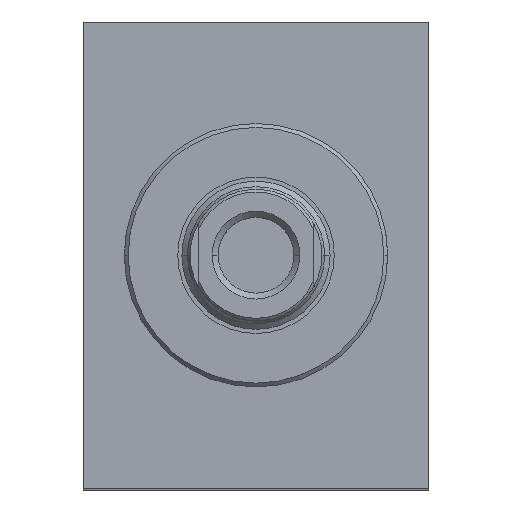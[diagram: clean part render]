
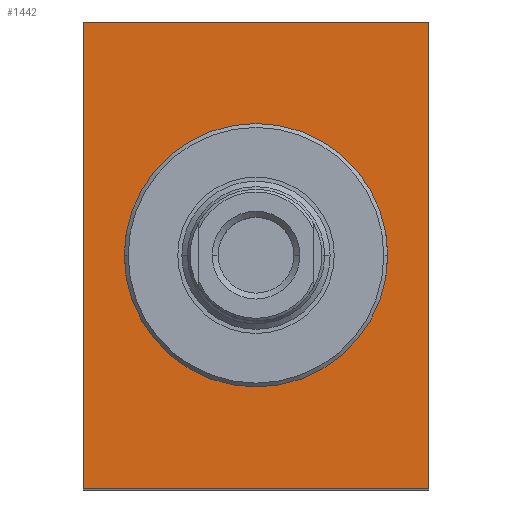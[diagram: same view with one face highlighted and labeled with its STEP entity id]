
A CAD part, top view. The second image highlights one B-rep face of the part: STEP entity #1442.
In plain terms, the highlighted planar face has unit normal (0, 0, 1).
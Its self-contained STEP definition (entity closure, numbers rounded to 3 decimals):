
#31 = VECTOR ( 'NONE', #956, 1000. ) ;
#97 = VECTOR ( 'NONE', #4282, 1000. ) ;
#133 = CARTESIAN_POINT ( 'NONE',  ( -31.5, -42.5, -10. ) ) ;
#407 = DIRECTION ( 'NONE',  ( 0., -1., 0. ) ) ;
#548 = DIRECTION ( 'NONE',  ( 0., 0., -1. ) ) ;
#587 = CARTESIAN_POINT ( 'NONE',  ( -31.5, 42.5, -10. ) ) ;
#604 = VERTEX_POINT ( 'NONE', #3106 ) ;
#876 = FACE_OUTER_BOUND ( 'NONE', #2413, .T. ) ;
#956 = DIRECTION ( 'NONE',  ( 1., 0., 0. ) ) ;
#992 = CARTESIAN_POINT ( 'NONE',  ( 31.5, 42.5, -10. ) ) ;
#1021 = VECTOR ( 'NONE', #4229, 1000. ) ;
#1174 = CIRCLE ( 'NONE', #1852, 24.001 ) ;
#1182 = ORIENTED_EDGE ( 'NONE', *, *, #3375, .T. ) ;
#1234 = EDGE_LOOP ( 'NONE', ( #2014, #2585 ) ) ;
#1296 = EDGE_CURVE ( 'NONE', #1327, #2000, #3342, .T. ) ;
#1300 = FACE_BOUND ( 'NONE', #1234, .T. ) ;
#1302 = ORIENTED_EDGE ( 'NONE', *, *, #1521, .T. ) ;
#1327 = VERTEX_POINT ( 'NONE', #2508 ) ;
#1351 = DIRECTION ( 'NONE',  ( 0., 0., 1. ) ) ;
#1442 = ADVANCED_FACE ( 'NONE', ( #1300, #876 ), #3272, .T. ) ;
#1521 = EDGE_CURVE ( 'NONE', #1607, #3082, #3692, .T. ) ;
#1535 = CARTESIAN_POINT ( 'NONE',  ( 31.5, -42.5, -10. ) ) ;
#1607 = VERTEX_POINT ( 'NONE', #2596 ) ;
#1681 = EDGE_CURVE ( 'NONE', #2000, #1327, #1174, .T. ) ;
#1748 = DIRECTION ( 'NONE',  ( 0., 0., -1. ) ) ;
#1849 = LINE ( 'NONE', #992, #97 ) ;
#1852 = AXIS2_PLACEMENT_3D ( 'NONE', #2072, #548, #3298 ) ;
#2000 = VERTEX_POINT ( 'NONE', #4486 ) ;
#2003 = AXIS2_PLACEMENT_3D ( 'NONE', #2483, #1748, #2080 ) ;
#2014 = ORIENTED_EDGE ( 'NONE', *, *, #1681, .T. ) ;
#2072 = CARTESIAN_POINT ( 'NONE',  ( 0., 0., -10. ) ) ;
#2080 = DIRECTION ( 'NONE',  ( -1., 0., 0. ) ) ;
#2124 = DIRECTION ( 'NONE',  ( 1., 0., 0. ) ) ;
#2379 = LINE ( 'NONE', #3982, #2454 ) ;
#2413 = EDGE_LOOP ( 'NONE', ( #3534, #1302, #3274, #1182 ) ) ;
#2454 = VECTOR ( 'NONE', #407, 1000. ) ;
#2483 = CARTESIAN_POINT ( 'NONE',  ( 0., 0., -10. ) ) ;
#2495 = CARTESIAN_POINT ( 'NONE',  ( 0., 0., -10. ) ) ;
#2508 = CARTESIAN_POINT ( 'NONE',  ( 24.001, 0., -10. ) ) ;
#2585 = ORIENTED_EDGE ( 'NONE', *, *, #1296, .T. ) ;
#2596 = CARTESIAN_POINT ( 'NONE',  ( -31.5, -42.5, -10. ) ) ;
#2694 = LINE ( 'NONE', #1535, #1021 ) ;
#2758 = AXIS2_PLACEMENT_3D ( 'NONE', #2495, #1351, #2124 ) ;
#3028 = EDGE_CURVE ( 'NONE', #3410, #1607, #2379, .T. ) ;
#3082 = VERTEX_POINT ( 'NONE', #4176 ) ;
#3106 = CARTESIAN_POINT ( 'NONE',  ( 31.5, 42.5, -10. ) ) ;
#3272 = PLANE ( 'NONE',  #2758 ) ;
#3274 = ORIENTED_EDGE ( 'NONE', *, *, #5098, .T. ) ;
#3298 = DIRECTION ( 'NONE',  ( -1., 0., 0. ) ) ;
#3342 = CIRCLE ( 'NONE', #2003, 24.001 ) ;
#3375 = EDGE_CURVE ( 'NONE', #604, #3410, #1849, .T. ) ;
#3410 = VERTEX_POINT ( 'NONE', #587 ) ;
#3534 = ORIENTED_EDGE ( 'NONE', *, *, #3028, .T. ) ;
#3692 = LINE ( 'NONE', #133, #31 ) ;
#3982 = CARTESIAN_POINT ( 'NONE',  ( -31.5, 42.5, -10. ) ) ;
#4176 = CARTESIAN_POINT ( 'NONE',  ( 31.5, -42.5, -10. ) ) ;
#4229 = DIRECTION ( 'NONE',  ( 0., 1., 0. ) ) ;
#4282 = DIRECTION ( 'NONE',  ( -1., 0., 0. ) ) ;
#4486 = CARTESIAN_POINT ( 'NONE',  ( -24.001, 0., -10. ) ) ;
#5098 = EDGE_CURVE ( 'NONE', #3082, #604, #2694, .T. ) ;
